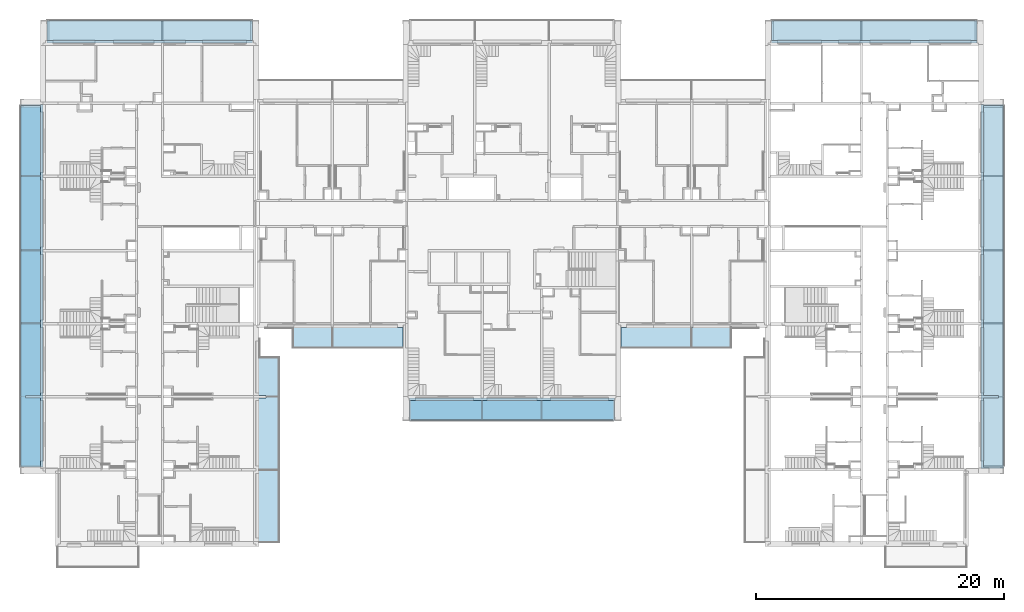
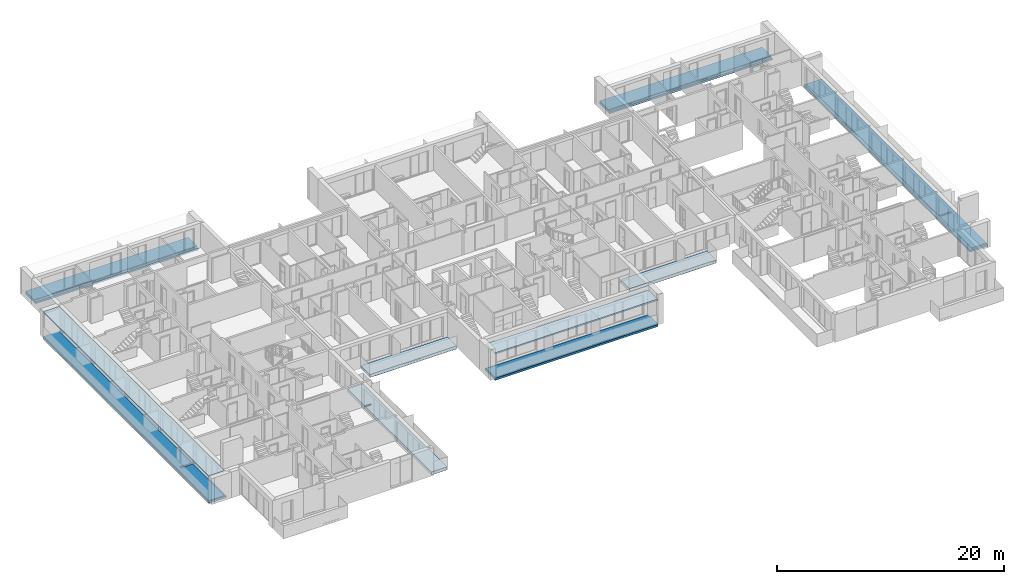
# One storey, part 1 of 61: 5 beams, 5 slabs.
"""IFC2X3 building model written with IfcOpenShell, lengths in millimetres."""

from ifc_helpers import new_model, entity, si_unit, converted_unit, derived_unit, money_unit, direction, frame, origin_with_axes, place, context, subcontext, project, spatial, faceted_brep, material, material_list, type_object, element, save


model = new_model("IFC2X3")

# Units and contexts
model_context = context("Model", 3, precision=0.01, world=origin_with_axes(), true_north=direction((0.34421633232, 0.938890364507)))
body_context = subcontext(model_context, "Body", "Model", "MODEL_VIEW")
ifc_project = project(units=[si_unit("LENGTHUNIT", "METRE", prefix="MILLI"), si_unit("AREAUNIT", "SQUARE_METRE"), si_unit("VOLUMEUNIT", "CUBIC_METRE"), converted_unit("PLANEANGLEUNIT", "DEGREE", entity("IfcPlaneAngleMeasure", 0.0174532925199), si_unit("PLANEANGLEUNIT", "RADIAN"), dimensions=[0, 0, 0, 0, 0, 0, 0]), si_unit("SOLIDANGLEUNIT", "STERADIAN"), money_unit("USD"), converted_unit("TIMEUNIT", "Year", entity("IfcTimeMeasure", 31556926.0), si_unit("TIMEUNIT", "SECOND"), dimensions=[0, 0, 1, 0, 0, 0, 0]), si_unit("MASSUNIT", "GRAM", prefix="KILO"), si_unit("THERMODYNAMICTEMPERATUREUNIT", "DEGREE_CELSIUS"), si_unit("LUMINOUSINTENSITYUNIT", "LUMEN"), si_unit("ENERGYUNIT", "JOULE", prefix="MEGA"), derived_unit("THERMALCONDUCTANCEUNIT", [(si_unit("POWERUNIT", "WATT"), 1), (si_unit("LENGTHUNIT", "METRE"), -1), (si_unit("THERMODYNAMICTEMPERATUREUNIT", "KELVIN"), -1)]), derived_unit("SPECIFICHEATCAPACITYUNIT", [(si_unit("ENERGYUNIT", "JOULE"), 1), (si_unit("MASSUNIT", "GRAM", prefix="KILO"), -1), (si_unit("THERMODYNAMICTEMPERATUREUNIT", "KELVIN"), -1)]), derived_unit("MASSDENSITYUNIT", [(si_unit("MASSUNIT", "GRAM", prefix="KILO"), 1), (si_unit("VOLUMEUNIT", "CUBIC_METRE"), -1)])], contexts=[model_context])

# Site, building, storey
site_placement = place(None, origin_with_axes())
site = spatial("IfcSite", under=ifc_project, at=site_placement, Name="USTRONIE MORSKIE", CompositionType="ELEMENT")
building_placement = place(site_placement, origin_with_axes())
building = spatial("IfcBuilding", under=site, at=building_placement, Name="Budynek", CompositionType="ELEMENT")
storey_placement = place(building_placement, frame((0.0, 0.0, 13000.0), z_axis=(0.0, 0.0, 1.0), x_axis=(1.0, 0.0, 0.0)))
storey = spatial("IfcBuildingStorey", under=building, at=storey_placement, Name="PIĘTRO 4", CompositionType="ELEMENT", Elevation=13000.0)

# Beams
ifc_material_1 = material(Name="Laminat")
ifc_material_2 = material(Name="Membrana przeciwwilgociowa")
ifc_material_3 = material(Name="Blacha ocynkowana")
ifc_material_4 = material(Name="Beton konstrukcyjny B25")
ifc_material_5 = material(Name="Płyty styropianowe twarde HIGH-PRIORITY")
ifc_material_list_1 = material_list([ifc_material_1, ifc_material_2, ifc_material_3, ifc_material_4, ifc_material_5])
beam_type = type_object("IfcBeamType", Name="USTR - balkon_02 1810 x 320", PredefinedType="NOTDEFINED")
beam_1_placement = place(storey_placement, frame((349967.921003, 715311.199036, -360.000001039), z_axis=(0.0, 0.0, 1.0), x_axis=(1.0, 0.0, 0.0)))
element("IfcBeam", 1, at=beam_1_placement, inside=storey, type_object=beam_type, material=ifc_material_list_1, Name="P8", context=body_context, shape_type="Brep", body=[
    faceted_brep([(-1420.03136309, 5590.0, 309.999996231), (-1420.03136309, 5790.0, 309.999996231), (-214.999892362, 5790.0, 309.999996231), (-214.999892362, 29180.0, 309.999996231), (-1782.4997996, 29180.0, 309.999996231), (-1782.4997996, 0.0, 309.999996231), (-214.999892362, 0.0, 309.999996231), (-214.999892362, 5590.0, 309.999996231), (-1420.03136309, 5590.0, 284.999996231), (-1420.03136309, 5790.0, 284.999996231), (-214.999892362, 5790.0, 284.999996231), (-214.999892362, 29180.0, 284.999996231), (-1757.49989236, 29180.0, 284.999996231), (-1757.49989236, 29180.0, 214.999996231), (-1782.4997996, 29180.0, 214.999996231), (-1782.4997996, 0.0, 214.999996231), (-1757.49989236, 0.0, 214.999996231), (-1757.49989236, 0.0, 284.999996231), (-214.999892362, 0.0, 284.999996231), (-214.999892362, 5590.0, 284.999996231)], [[[0, 1, 2, 3, 4, 5, 6, 7]], [[1, 0, 8, 9]], [[10, 2, 1, 9]], [[2, 10, 11, 3]], [[4, 3, 11, 12, 13, 14]], [[4, 14, 15, 5]], [[5, 15, 16, 17, 18, 6]], [[19, 7, 6, 18]], [[0, 7, 19, 8]], [[8, 19, 18, 17, 12, 11, 10, 9]], [[13, 12, 17, 16]], [[14, 13, 16, 15]]]),
    faceted_brep([(-1420.03136309, 5590.0, 210.000015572), (-1420.03136309, 5790.0, 210.000015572), (-199.99997563, 5790.0, 209.999997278), (-199.99997563, 29290.0, 209.999997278), (-1799.99979832, 29290.0, 209.999997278), (-1799.99979832, 0.0, 209.999997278), (-199.99997563, 0.0, 209.999997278), (-199.99997563, 5590.0, 209.999997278), (-1420.03136309, 5590.0, 200.000001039), (-1420.03136309, 5790.0, 200.000001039), (-199.99997563, 5790.0, 200.000001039), (-199.99997563, 29290.0, 199.999995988), (-1799.99979832, 29290.0, 200.000019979), (-1799.99979832, 0.0, 200.000019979), (-199.99997563, 0.0, 199.999995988), (-199.99997563, 5590.0, 200.000001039)], [[[0, 1, 2, 3, 4, 5, 6, 7]], [[1, 0, 8, 9]], [[10, 2, 1, 9]], [[2, 10, 11, 3]], [[11, 12, 4, 3]], [[5, 4, 12, 13]], [[5, 13, 14, 6]], [[15, 7, 6, 14]], [[0, 7, 15, 8]], [[8, 15, 14, 13, 12, 11, 10, 9]]]),
    faceted_brep([(-1420.00008423, 5590.0, 1.039014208e-06), (-1420.00008423, 5790.0, 1.039014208e-06), (-209.999887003, 5790.0, 1.039014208e-06), (-209.999887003, 29290.0, 1.52888350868e-05), (-1799.99980792, 29290.0, -1.01926289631e-05), (-1799.99980792, 0.0, -1.01926289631e-05), (-209.999887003, 0.0, 1.52888350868e-05), (-209.999887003, 5590.0, 1.039014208e-06), (-1420.00008423, 5590.0, -10.0000071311), (-1420.00008423, 5790.0, -10.0000071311), (-209.999402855, 5790.0, -10.0000071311), (-209.999402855, 29290.0, -10.0000071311), (-1810.03048454, 29290.0, -10.0000071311), (-1810.03048454, 29290.0, 210.000001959), (-1799.99980792, 29290.0, 210.000001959), (-1799.99980792, 0.0, 210.000001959), (-1810.03048454, 0.0, 210.000001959), (-1810.03048454, 0.0, -10.0000071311), (-209.999402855, 0.0, -10.0000071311), (-209.999402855, 5590.0, -10.0000071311)], [[[0, 1, 2, 3, 4, 5, 6, 7]], [[1, 0, 8, 9]], [[10, 2, 1, 9]], [[2, 10, 11, 3]], [[11, 12, 13, 14, 4, 3]], [[5, 4, 14, 15]], [[16, 17, 18, 6, 5, 15]], [[19, 7, 6, 18]], [[0, 7, 19, 8]], [[8, 19, 18, 17, 12, 11, 10, 9]], [[16, 13, 12, 17]], [[15, 14, 13, 16]]]),
    faceted_brep([(-1799.99981143, 29290.0, 200.000023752), (-1799.99981143, 29290.0, 0.0), (-1799.99981143, 0.0, 0.0), (-1799.99981143, 0.0, 200.000023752), (-199.999996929, 29290.0, 200.000023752), (-99.9999716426, 29290.0, 200.000023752), (-99.9999716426, 29290.0, 0.0), (-209.999887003, 29290.0, 1.52888350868e-05), (-209.999887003, 0.0, 1.52888350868e-05), (-99.9999716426, 0.0, 0.0), (-99.9999716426, 0.0, 200.000023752), (-199.999996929, 0.0, 200.000023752)], [[[0, 1, 2, 3]], [[0, 4, 5, 6, 7, 1]], [[1, 7, 8, 2]], [[3, 2, 8, 9, 10, 11]], [[4, 0, 3, 11]], [[5, 4, 11, 10]], [[6, 5, 10, 9]], [[7, 6, 9, 8]]]),
    faceted_brep([(-99.9999724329, 0.0, 200.000021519), (-99.9999724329, 29290.0, 200.000021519), (-99.9999724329, 29290.0, 0.0), (-99.9999724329, 0.0, 0.0), (0.0, 0.0, 200.000021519), (0.0, 29290.0, 200.000021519), (0.0, 29290.0, 0.0), (0.0, 0.0, 0.0)], [[[0, 1, 2, 3]], [[4, 5, 1, 0]], [[2, 1, 5, 6]], [[3, 2, 6, 7]], [[4, 0, 3, 7]], [[7, 6, 5, 4]]]),
])
beam_2_placement = place(storey_placement, frame((425667.920835, 715201.199036, -360.000001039), z_axis=(0.0, 0.0, 1.0), x_axis=(1.0, 0.0, 0.0)))
element("IfcBeam", 2, at=beam_2_placement, inside=storey, type_object=beam_type, material=ifc_material_list_1, Name="P8", context=body_context, shape_type="Brep", body=[
    faceted_brep([(1420.00008423, 5700.0, 309.999996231), (214.999892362, 5700.0, 309.999996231), (214.999892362, 110.0, 309.999996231), (1782.4997996, 110.0, 309.999996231), (1782.4997996, 29290.0, 309.999996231), (214.999892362, 29290.0, 309.999996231), (214.999892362, 5900.0, 309.999996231), (1420.00008423, 5900.0, 309.999996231), (1420.00008423, 5700.0, 284.999996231), (214.999892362, 5700.0, 284.999996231), (214.999892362, 110.0, 284.999996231), (1782.4997996, 110.0, 214.999996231), (1757.49989236, 110.0, 284.999996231), (1757.49989236, 110.0, 214.999996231), (1782.4997996, 29290.0, 214.999996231), (1757.49989236, 29290.0, 214.999996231), (1757.49989236, 29290.0, 284.999996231), (214.999892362, 29290.0, 284.999996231), (214.999892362, 5900.0, 284.999996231), (1420.00008423, 5900.0, 284.999996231)], [[[0, 1, 2, 3, 4, 5, 6, 7]], [[1, 0, 8, 9]], [[1, 9, 10, 2]], [[11, 3, 2, 10, 12, 13]], [[14, 4, 3, 11]], [[5, 4, 14, 15, 16, 17]], [[18, 6, 5, 17]], [[7, 6, 18, 19]], [[0, 7, 19, 8]], [[19, 18, 17, 16, 12, 10, 9, 8]], [[16, 15, 13, 12]], [[15, 14, 11, 13]]]),
    faceted_brep([(1420.00008423, 5700.0, 209.999997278), (199.99997563, 5700.0, 209.999997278), (199.99997563, 0.0, 209.999997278), (1799.99979832, 0.0, 209.999997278), (1799.99979832, 29400.0, 209.999997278), (199.99997563, 29400.0, 209.999997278), (199.99997563, 5900.0, 209.999997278), (1420.00008423, 5900.0, 209.999997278), (1420.00008423, 5700.0, 200.000001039), (199.99997563, 5700.0, 200.000001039), (199.99997563, 0.0, 199.999995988), (1799.99979832, 0.0, 200.000019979), (1799.99979832, 29400.0, 200.000019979), (199.99997563, 29400.0, 199.999995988), (199.99997563, 5900.0, 200.000001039), (1420.00008423, 5900.0, 200.000001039)], [[[0, 1, 2, 3, 4, 5, 6, 7]], [[1, 0, 8, 9]], [[1, 9, 10, 2]], [[11, 3, 2, 10]], [[11, 12, 4, 3]], [[5, 4, 12, 13]], [[14, 6, 5, 13]], [[7, 6, 14, 15]], [[0, 7, 15, 8]], [[15, 14, 13, 12, 11, 10, 9, 8]]]),
    faceted_brep([(1420.00008423, 5700.0, 1.039014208e-06), (209.999887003, 5700.0, 1.039014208e-06), (209.999887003, 0.0, 1.52888350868e-05), (1799.99980792, 0.0, -1.01926307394e-05), (1799.99980792, 29400.0, -1.01926307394e-05), (209.999887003, 29400.0, 1.52888350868e-05), (209.999887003, 5900.0, 1.039014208e-06), (1420.00008423, 5900.0, 1.039014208e-06), (1420.00008423, 5700.0, -10.0000071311), (209.999402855, 5700.0, -10.0000071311), (209.999402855, 0.0, -10.0000071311), (1810.03048454, 0.0, -10.0000071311), (1810.03048454, 0.0, 210.000001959), (1799.99980792, 0.0, 210.000001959), (1799.99980792, 29400.0, 210.000001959), (1810.03048454, 29400.0, 210.000001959), (1810.03048454, 29400.0, -10.0000071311), (209.999402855, 29400.0, -10.0000071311), (209.999402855, 5900.0, -10.0000071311), (1420.00008423, 5900.0, -10.0000071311)], [[[0, 1, 2, 3, 4, 5, 6, 7]], [[1, 0, 8, 9]], [[1, 9, 10, 2]], [[11, 12, 13, 3, 2, 10]], [[13, 14, 4, 3]], [[14, 15, 16, 17, 5, 4]], [[18, 6, 5, 17]], [[7, 6, 18, 19]], [[0, 7, 19, 8]], [[19, 18, 17, 16, 11, 10, 9, 8]], [[11, 16, 15, 12]], [[12, 15, 14, 13]]]),
    faceted_brep([(199.999996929, 29400.0, 200.000023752), (99.9999716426, 29400.0, 200.000023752), (99.9999716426, 0.0, 200.000023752), (199.999996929, 0.0, 200.000023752), (1799.99981143, 29400.0, 200.000023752), (1799.99981143, 29400.0, 0.0), (209.999887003, 29400.0, 1.52888350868e-05), (99.9999716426, 29400.0, 0.0), (99.9999716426, 0.0, 0.0), (209.999887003, 0.0, 1.52888350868e-05), (1799.99981143, 0.0, 0.0), (1799.99981143, 0.0, 200.000023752)], [[[0, 1, 2, 3]], [[0, 4, 5, 6, 7, 1]], [[1, 7, 8, 2]], [[3, 2, 8, 9, 10, 11]], [[4, 0, 3, 11]], [[5, 4, 11, 10]], [[6, 5, 10, 9]], [[7, 6, 9, 8]]]),
    faceted_brep([(0.0, 0.0, 200.000021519), (0.0, 29400.0, 200.000021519), (0.0, 29400.0, 0.0), (0.0, 0.0, 0.0), (99.9999724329, 0.0, 200.000021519), (99.9999724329, 29400.0, 200.000021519), (99.9999724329, 29400.0, 0.0), (99.9999724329, 0.0, 0.0)], [[[0, 1, 2, 3]], [[4, 5, 1, 0]], [[2, 1, 5, 6]], [[3, 2, 6, 7]], [[4, 0, 3, 7]], [[7, 6, 5, 4]]]),
])
beam_3_placement = place(storey_placement, frame((366857.789911, 749551.197031, -360.000001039), z_axis=(0.0, 0.0, 1.0), x_axis=(-9.14543761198e-06, 0.999999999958, 0.0)))
element("IfcBeam", 3, at=beam_3_placement, inside=storey, type_object=beam_type, material=ifc_material_list_1, Name="B1", context=body_context, shape_type="Brep", body=[
    faceted_brep([(1782.49979959, 16579.8526906, 214.999996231), (1782.49979959, 16579.8526906, 309.999996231), (1782.49979959, 0.0, 309.999996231), (1782.49979959, 0.0, 214.999996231), (214.999892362, 16579.867026, 309.999996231), (1757.49989236, 16579.8529192, 214.999996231), (1757.49989236, 16579.8529192, 284.999996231), (214.999892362, 16579.867026, 284.999996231), (214.999892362, 0.0, 309.999996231), (214.999892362, 0.0, 284.999996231), (1757.49989236, 0.0, 284.999996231), (1757.49989236, 0.0, 214.999996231)], [[[0, 1, 2, 3]], [[4, 1, 0, 5, 6, 7]], [[1, 4, 8, 2]], [[3, 2, 8, 9, 10, 11]], [[5, 0, 3, 11]], [[6, 5, 11, 10]], [[7, 6, 10, 9]], [[4, 7, 9, 8]]]),
    faceted_brep([(1799.99979832, 0.0, 209.999997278), (1799.99979832, 16580.0, 209.999997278), (199.999975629, 16580.0, 209.999997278), (199.999975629, 0.0, 209.999997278), (1799.99979832, 0.0, 200.000019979), (1799.99979832, 16580.0, 200.000019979), (199.999975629, 16580.0, 199.999995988), (199.999975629, 0.0, 199.999995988)], [[[0, 1, 2, 3]], [[4, 5, 1, 0]], [[2, 1, 5, 6]], [[3, 2, 6, 7]], [[4, 0, 3, 7]], [[7, 6, 5, 4]]]),
    faceted_brep([(1810.03048454, 0.0, 210.000001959), (1810.03048454, 16580.0, 210.000001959), (1799.99980792, 16580.0, 210.000001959), (1799.99980792, 0.0, 210.000001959), (1810.03048454, 0.0, -10.0000071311), (1810.03048454, 16580.0, -10.0000071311), (209.999402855, 16580.0, -10.0000071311), (209.999887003, 16580.0, 1.52888350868e-05), (1799.99980792, 16580.0, -1.01926307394e-05), (1799.99980792, 0.0, -1.01926307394e-05), (209.999887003, 0.0, 1.52888350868e-05), (209.999402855, 0.0, -10.0000071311)], [[[0, 1, 2, 3]], [[4, 5, 1, 0]], [[2, 1, 5, 6, 7, 8]], [[3, 2, 8, 9]], [[4, 0, 3, 9, 10, 11]], [[11, 6, 5, 4]], [[10, 7, 6, 11]], [[9, 8, 7, 10]]]),
    faceted_brep([(199.999996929, 16580.0, 200.000023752), (99.9999716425, 16580.0, 200.000023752), (99.9999716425, 0.0, 200.000023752), (199.999996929, 0.0, 200.000023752), (1799.99981143, 16580.0, 200.000023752), (1799.99981143, 16580.0, 0.0), (209.999887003, 16580.0, 1.52888350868e-05), (99.9999716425, 16580.0, 0.0), (99.9999716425, 0.0, 0.0), (209.999887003, 0.0, 1.52888350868e-05), (1799.99981143, 0.0, 0.0), (1799.99981143, 0.0, 200.000023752)], [[[0, 1, 2, 3]], [[0, 4, 5, 6, 7, 1]], [[1, 7, 8, 2]], [[3, 2, 8, 9, 10, 11]], [[4, 0, 3, 11]], [[5, 4, 11, 10]], [[6, 5, 10, 9]], [[7, 6, 9, 8]]]),
    faceted_brep([(0.153636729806, 16580.0, 200.000001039), (0.00200537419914, 0.0, 200.000001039), (99.9999724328, 0.0, 200.000021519), (99.9999724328, 16580.0, 200.000021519), (0.00200537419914, 0.0, 0.0), (0.153636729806, 16580.0, 0.0), (0.0689487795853, 7319.86901296, 1.039014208e-06), (0.0674855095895, 7159.86901296, 1.039014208e-06), (99.9999724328, 0.0, 0.0), (99.9999724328, 16580.0, 0.0)], [[[0, 1, 2, 3]], [[4, 1, 0, 5, 6, 7]], [[1, 4, 8, 2]], [[3, 2, 8, 9]], [[5, 0, 3, 9]], [[6, 5, 9, 8, 4, 7]]]),
])
beam_4_placement = place(storey_placement, frame((425357.789911, 749551.197031, -360.000001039), z_axis=(0.0, 0.0, 1.0), x_axis=(-9.14543761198e-06, 0.999999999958, 0.0)))
element("IfcBeam", 4, at=beam_4_placement, inside=storey, type_object=beam_type, material=ifc_material_list_1, Name="B1", context=body_context, shape_type="Brep", body=[
    faceted_brep([(1782.49979959, 16579.8526906, 214.999996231), (1782.49979959, 16579.8526906, 309.999996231), (1782.49979959, 0.0, 309.999996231), (1782.49979959, 0.0, 214.999996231), (214.999892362, 16579.867026, 309.999996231), (1757.49989236, 16579.8529192, 214.999996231), (1757.49989236, 16579.8529192, 284.999996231), (214.999892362, 16579.867026, 284.999996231), (214.999892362, 0.0, 309.999996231), (214.999892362, 0.0, 284.999996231), (1757.49989236, 0.0, 284.999996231), (1757.49989236, 0.0, 214.999996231)], [[[0, 1, 2, 3]], [[4, 1, 0, 5, 6, 7]], [[1, 4, 8, 2]], [[3, 2, 8, 9, 10, 11]], [[5, 0, 3, 11]], [[6, 5, 11, 10]], [[7, 6, 10, 9]], [[4, 7, 9, 8]]]),
    faceted_brep([(1799.99979832, 0.0, 209.999997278), (1799.99979832, 16580.0, 209.999997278), (199.999975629, 16580.0, 209.999997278), (199.999975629, 0.0, 209.999997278), (1799.99979832, 0.0, 200.000019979), (1799.99979832, 16580.0, 200.000019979), (199.999975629, 16580.0, 199.999995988), (199.999975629, 0.0, 199.999995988)], [[[0, 1, 2, 3]], [[4, 5, 1, 0]], [[2, 1, 5, 6]], [[3, 2, 6, 7]], [[4, 0, 3, 7]], [[7, 6, 5, 4]]]),
    faceted_brep([(1810.03048454, 0.0, 210.000001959), (1810.03048454, 16580.0, 210.000001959), (1799.99980792, 16580.0, 210.000001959), (1799.99980792, 0.0, 210.000001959), (1810.03048454, 0.0, -10.0000071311), (1810.03048454, 16580.0, -10.0000071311), (209.999402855, 16580.0, -10.0000071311), (209.999887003, 16580.0, 1.52888350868e-05), (1799.99980792, 16580.0, -1.01926307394e-05), (1799.99980792, 0.0, -1.01926307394e-05), (209.999887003, 0.0, 1.52888350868e-05), (209.999402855, 0.0, -10.0000071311)], [[[0, 1, 2, 3]], [[4, 5, 1, 0]], [[2, 1, 5, 6, 7, 8]], [[3, 2, 8, 9]], [[4, 0, 3, 9, 10, 11]], [[11, 6, 5, 4]], [[10, 7, 6, 11]], [[9, 8, 7, 10]]]),
    faceted_brep([(199.999996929, 16580.0, 200.000023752), (99.9999716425, 16580.0, 200.000023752), (99.9999716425, 0.0, 200.000023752), (199.999996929, 0.0, 200.000023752), (1799.99981143, 16580.0, 200.000023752), (1799.99981143, 16580.0, 0.0), (209.999887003, 16580.0, 1.52888350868e-05), (99.9999716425, 16580.0, 0.0), (99.9999716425, 0.0, 0.0), (209.999887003, 0.0, 1.52888350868e-05), (1799.99981143, 0.0, 0.0), (1799.99981143, 0.0, 200.000023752)], [[[0, 1, 2, 3]], [[0, 4, 5, 6, 7, 1]], [[1, 7, 8, 2]], [[3, 2, 8, 9, 10, 11]], [[4, 0, 3, 11]], [[5, 4, 11, 10]], [[6, 5, 10, 9]], [[7, 6, 9, 8]]]),
    faceted_brep([(0.15345995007, 16580.0, 0.0), (0.15345995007, 16580.0, 200.00000094), (99.9999724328, 16580.0, 200.000021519), (99.9999724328, 16580.0, 0.0), (0.0, 1215.2157488, 0.0), (0.0, 1215.21574745, 200.000000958), (0.0, 0.0, 200.000021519), (99.9999724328, 0.0, 200.000021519), (99.9999724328, 0.0, 0.0), (0.0, 0.0, 0.0)], [[[0, 1, 2, 3]], [[1, 0, 4, 5]], [[1, 5, 6, 7, 2]], [[3, 2, 7, 8]], [[0, 3, 8, 9, 4]], [[5, 4, 9, 6]], [[8, 7, 6, 9]]]),
])
beam_5_placement = place(storey_placement, frame((396107.920919, 720901.19912, -360.000001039), z_axis=(0.0, 0.0, 1.0), x_axis=(0.0, 1.0, 0.0)))
element("IfcBeam", 5, at=beam_5_placement, inside=storey, type_object=beam_type, material=ifc_material_list_1, Name="P8", context=body_context, shape_type="Brep", body=[
    faceted_brep([(-1782.4997996, 0.0, 214.999996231), (-1782.4997996, 16580.0, 214.999996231), (-1757.49989236, 16580.0, 214.999996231), (-1757.49989236, 0.0, 214.999996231), (-1782.4997996, 0.0, 309.999996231), (-1782.4997996, 16580.0, 309.999996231), (-214.999892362, 16580.0, 309.999996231), (-214.999892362, 16580.0, 284.999996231), (-1757.49989236, 16580.0, 284.999996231), (-1757.49989236, 0.0, 284.999996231), (-214.999892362, 0.0, 284.999996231), (-214.999892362, 0.0, 309.999996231)], [[[0, 1, 2, 3]], [[4, 5, 1, 0]], [[2, 1, 5, 6, 7, 8]], [[3, 2, 8, 9]], [[4, 0, 3, 9, 10, 11]], [[11, 6, 5, 4]], [[10, 7, 6, 11]], [[9, 8, 7, 10]]]),
    faceted_brep([(-1799.99979832, 0.0, 200.000019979), (-1799.99979832, 16580.0, 200.000019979), (-199.99997563, 16580.0, 199.999995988), (-199.99997563, 0.0, 199.999995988), (-1799.99979832, 0.0, 209.999997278), (-1799.99979832, 16580.0, 209.999997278), (-199.99997563, 16580.0, 209.999997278), (-199.99997563, 0.0, 209.999997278)], [[[0, 1, 2, 3]], [[4, 5, 1, 0]], [[2, 1, 5, 6]], [[3, 2, 6, 7]], [[4, 0, 3, 7]], [[7, 6, 5, 4]]]),
    faceted_brep([(-1810.03048454, 0.0, -10.0000071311), (-1810.03048454, 16580.0, -10.0000071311), (-209.999402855, 16580.0, -10.0000071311), (-209.999402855, 0.0, -10.0000071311), (-1810.03048454, 0.0, 210.000001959), (-1810.03048454, 16580.0, 210.000001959), (-1799.99980792, 16580.0, 210.000001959), (-1799.99980792, 16580.0, -1.01926289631e-05), (-209.999887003, 16580.0, 1.52888350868e-05), (-209.999887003, 0.0, 1.52888350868e-05), (-1799.99980792, 0.0, -1.01926289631e-05), (-1799.99980792, 0.0, 210.000001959)], [[[0, 1, 2, 3]], [[4, 5, 1, 0]], [[2, 1, 5, 6, 7, 8]], [[3, 2, 8, 9]], [[4, 0, 3, 9, 10, 11]], [[11, 6, 5, 4]], [[10, 7, 6, 11]], [[9, 8, 7, 10]]]),
    faceted_brep([(-1799.99981143, 16580.0, 200.000023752), (-1799.99981143, 16580.0, 0.0), (-1799.99981143, 0.0, 0.0), (-1799.99981143, 0.0, 200.000023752), (-199.999996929, 16580.0, 200.000023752), (-99.9999716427, 16580.0, 200.000023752), (-99.9999716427, 16580.0, 0.0), (-209.999887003, 16580.0, 1.52888350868e-05), (-209.999887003, 0.0, 1.52888350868e-05), (-99.9999716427, 0.0, 0.0), (-99.9999716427, 0.0, 200.000023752), (-199.999996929, 0.0, 200.000023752)], [[[0, 1, 2, 3]], [[0, 4, 5, 6, 7, 1]], [[1, 7, 8, 2]], [[3, 2, 8, 9, 10, 11]], [[4, 0, 3, 11]], [[5, 4, 11, 10]], [[6, 5, 10, 9]], [[7, 6, 9, 8]]]),
    faceted_brep([(-99.9999724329, 0.0, 200.000021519), (-99.9999724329, 16580.0, 200.000021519), (-99.9999724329, 16580.0, 0.0), (-99.9999724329, 0.0, 0.0), (0.0, 0.0, 200.000021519), (0.0, 16580.0, 200.000021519), (0.0, 16580.0, 0.0), (0.0, 0.0, 0.0)], [[[0, 1, 2, 3]], [[4, 5, 1, 0]], [[2, 1, 5, 6]], [[3, 2, 6, 7]], [[4, 0, 3, 7]], [[7, 6, 5, 4]]]),
])

# Slabs
ifc_material_6 = material(Name="Płytki okładzinowe")
ifc_material_7 = material(Name="Pustka powietrzna")
ifc_material_list_2 = material_list([ifc_material_6, ifc_material_7, ifc_material_2, ifc_material_4, ifc_material_1])
slab_type_1 = type_object("IfcSlabType", Name="Balkony na HALFENACH 330", PredefinedType="FLOOR")
slab_1_placement = place(storey_placement, frame((367367.923256, 724111.198359, -50.0), z_axis=(0.0, 0.0, 1.0), x_axis=(1.0, 0.0, 0.0)))
element("IfcSlab", 6, at=slab_1_placement, inside=storey, type_object=slab_type_1, material=ifc_material_list_2, Name="P8", PredefinedType="FLOOR", context=body_context, shape_type="Brep", body=[
    faceted_brep([(599.997662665, -3209.99932241, 0.0), (0.00756519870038, -3209.99932241, 0.0), (0.0349036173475, -14809.9994244, 0.0), (1600.03372044, -14809.9994244, 0.0), (1600.00289647, 0.0, 0.0), (0.0, 0.0, 0.0), (0.00709384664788, -3009.99932241, 0.0), (599.997662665, -3009.99932241, 0.0), (599.997662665, -3209.99932241, -25.0), (0.00756519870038, -3209.99932241, -25.0), (0.0349036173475, -14809.9994244, -25.0), (1600.03372044, -14809.9994244, -25.0), (1600.00289647, 0.0, -25.0), (0.0, 0.0, -25.0), (0.00709384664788, -3009.99932241, -25.0), (599.997662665, -3009.99932241, -25.0)], [[[0, 1, 2, 3, 4, 5, 6, 7]], [[1, 0, 8, 9]], [[1, 9, 10, 2]], [[10, 11, 3, 2]], [[11, 12, 4, 3]], [[12, 13, 5, 4]], [[14, 6, 5, 13]], [[7, 6, 14, 15]], [[0, 7, 15, 8]], [[15, 14, 13, 12, 11, 10, 9, 8]]]),
    faceted_brep([(599.997662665, -3209.99932241, -25.0), (0.00756519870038, -3209.99932241, -25.0), (0.0349036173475, -14809.9994244, -25.0), (1600.03372044, -14809.9994244, -25.0), (1600.00289647, 0.0, -25.0), (0.0, 0.0, -25.0), (0.00709384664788, -3009.99932241, -25.0), (599.997662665, -3009.99932241, -25.0), (599.997662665, -3209.99932241, -105.0), (0.00756519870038, -3209.99932241, -105.0), (0.0349036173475, -14809.9994244, -105.0), (1600.03372044, -14809.9994244, -105.0), (1600.00289647, 0.0, -105.0), (0.0, 0.0, -105.0), (0.00709384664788, -3009.99932241, -105.0), (599.997662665, -3009.99932241, -105.0)], [[[0, 1, 2, 3, 4, 5, 6, 7]], [[1, 0, 8, 9]], [[1, 9, 10, 2]], [[10, 11, 3, 2]], [[11, 12, 4, 3]], [[12, 13, 5, 4]], [[14, 6, 5, 13]], [[7, 6, 14, 15]], [[0, 7, 15, 8]], [[15, 14, 13, 12, 11, 10, 9, 8]]]),
    faceted_brep([(599.997662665, -3209.99932241, -105.0), (0.00756519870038, -3209.99932241, -105.0), (0.0349036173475, -14809.9994244, -105.0), (1600.03372044, -14809.9994244, -105.0), (1600.00289647, 0.0, -105.0), (0.0, 0.0, -105.0), (0.00709384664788, -3009.99932241, -105.0), (599.997662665, -3009.99932241, -105.0), (599.997662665, -3209.99932241, -110.0), (0.00756519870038, -3209.99932241, -110.0), (0.0349036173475, -14809.9994244, -110.0), (1600.03372044, -14809.9994244, -110.0), (1600.00289647, 0.0, -110.0), (0.0, 0.0, -110.0), (0.00709384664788, -3009.99932241, -110.0), (599.997662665, -3009.99932241, -110.0)], [[[0, 1, 2, 3, 4, 5, 6, 7]], [[1, 0, 8, 9]], [[1, 9, 10, 2]], [[10, 11, 3, 2]], [[11, 12, 4, 3]], [[12, 13, 5, 4]], [[14, 6, 5, 13]], [[7, 6, 14, 15]], [[0, 7, 15, 8]], [[15, 14, 13, 12, 11, 10, 9, 8]]]),
    faceted_brep([(0.0349036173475, -14809.9994244, -310.0), (0.0349036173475, -14809.9994244, -110.0), (0.0, 0.0, -110.0), (0.0, 0.0, -310.0), (1600.03372044, -14809.9994244, -310.0), (1600.03372044, -14809.9994244, -110.0), (1600.00289647, 0.0, -110.0), (1600.00289647, 0.0, -310.0)], [[[0, 1, 2, 3]], [[4, 5, 1, 0]], [[2, 1, 5, 6]], [[3, 2, 6, 7]], [[3, 7, 4, 0]], [[7, 6, 5, 4]]]),
    faceted_brep([(10.0338443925, -14809.9994244, -330.0), (10.0338443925, -14809.9994244, -310.0), (10.0094750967, -3209.99932241, -310.0), (10.0094750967, -3209.99932241, -330.0), (1600.03372044, -14809.9994244, -330.0), (1600.03372044, -14809.9994244, -310.0), (1600.00289647, 0.0, -310.0), (10.0027315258, 0.0, -310.0), (10.0090549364, -3009.99932241, -310.0), (600.028941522, -3009.99932241, -310.0), (600.028941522, -3209.99932241, -310.0), (600.028941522, -3209.99932241, -330.0), (600.028941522, -3009.99932241, -330.0), (10.0090549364, -3009.99932241, -330.0), (10.0027315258, 0.0, -330.0), (1600.00289647, 0.0, -330.0)], [[[0, 1, 2, 3]], [[1, 0, 4, 5]], [[2, 1, 5, 6, 7, 8, 9, 10]], [[3, 2, 10, 11]], [[0, 3, 11, 12, 13, 14, 15, 4]], [[15, 6, 5, 4]], [[14, 7, 6, 15]], [[7, 14, 13, 8]], [[8, 13, 12, 9]], [[11, 10, 9, 12]]]),
])
slab_2_placement = place(storey_placement, frame((379016.714661, 725001.198359, -50.0), z_axis=(0.0, 0.0, 1.0), x_axis=(1.0, 0.0, 0.0)))
element("IfcSlab", 7, at=slab_2_placement, inside=storey, type_object=slab_type_1, material=ifc_material_list_2, Name="P3", PredefinedType="FLOOR", context=body_context, shape_type="Brep", body=[
    faceted_brep([(0.0, 0.0, -25.0), (1.44800593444, 1600.00067759, -25.0), (1.44800593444, 1600.00067759, 0.0), (0.0, 0.0, 0.0), (-8838.77439156, 0.0, -25.0), (-8838.77439156, 1600.00067759, -25.0), (-8838.77439156, 1600.00067759, 0.0), (-8838.77439156, 0.0, 0.0)], [[[0, 1, 2, 3]], [[1, 0, 4, 5]], [[1, 5, 6, 2]], [[7, 3, 2, 6]], [[4, 0, 3, 7]], [[5, 4, 7, 6]]]),
    faceted_brep([(0.0, 0.0, -105.0), (1.44800593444, 1600.00067759, -105.0), (1.44800593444, 1600.00067759, -25.0), (0.0, 0.0, -25.0), (-8838.77439156, 0.0, -105.0), (-8838.77439156, 1600.00067759, -105.0), (-8838.77439156, 1600.00067759, -25.0), (-8838.77439156, 0.0, -25.0)], [[[0, 1, 2, 3]], [[1, 0, 4, 5]], [[1, 5, 6, 2]], [[7, 3, 2, 6]], [[4, 0, 3, 7]], [[5, 4, 7, 6]]]),
    faceted_brep([(0.0, 0.0, -110.0), (1.44800593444, 1600.00067759, -110.0), (1.44800593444, 1600.00067759, -105.0), (0.0, 0.0, -105.0), (-8838.77439156, 0.0, -110.0), (-8838.77439156, 1600.00067759, -110.0), (-8838.77439156, 1600.00067759, -105.0), (-8838.77439156, 0.0, -105.0)], [[[0, 1, 2, 3]], [[1, 0, 4, 5]], [[1, 5, 6, 2]], [[7, 3, 2, 6]], [[4, 0, 3, 7]], [[5, 4, 7, 6]]]),
    faceted_brep([(1.44800593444, 1600.00067759, -310.0), (1.44800593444, 1600.00067759, -110.0), (0.0, 0.0, -110.0), (0.0, 0.0, -310.0), (-8838.77439156, 1600.00067759, -310.0), (-8838.77439156, 1600.00067759, -110.0), (-8838.77439156, 0.0, -110.0), (-8838.77439156, 0.0, -310.0)], [[[0, 1, 2, 3]], [[4, 5, 1, 0]], [[2, 1, 5, 6]], [[3, 2, 6, 7]], [[3, 7, 4, 0]], [[7, 6, 5, 4]]]),
    faceted_brep([(-8.79374194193, 1590.00067759, -330.0), (-8.79374194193, 1590.00067759, -310.0), (-8.79374194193, 0.0, -310.0), (-8.79374194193, 0.0, -330.0), (-8838.77439156, 1590.00067759, -310.0), (-8838.77439156, 1590.00067759, -330.0), (-8838.77439156, 0.0, -310.0), (-8838.77439156, 0.0, -330.0)], [[[0, 1, 2, 3]], [[4, 1, 0, 5]], [[1, 4, 6, 2]], [[3, 2, 6, 7]], [[5, 0, 3, 7]], [[4, 5, 7, 6]]]),
])
slab_3_placement = place(storey_placement, frame((396619.640549, 725001.198359, -50.0), z_axis=(0.0, 0.0, 1.0), x_axis=(1.0, 0.0, 0.0)))
element("IfcSlab", 8, at=slab_3_placement, inside=storey, type_object=slab_type_1, material=ifc_material_list_2, Name="P3", PredefinedType="FLOOR", context=body_context, shape_type="Brep", body=[
    faceted_brep([(0.0, 0.0, -25.0), (8838.27323738, 0.0, -25.0), (8838.27323738, 0.0, 0.0), (0.0, 0.0, 0.0), (-1.44800593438, 1600.00067759, -25.0), (8838.27323738, 1600.00067759, -25.0), (8838.27323738, 1600.00067759, 0.0), (-1.44800593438, 1600.00067759, 0.0)], [[[0, 1, 2, 3]], [[1, 0, 4, 5]], [[1, 5, 6, 2]], [[7, 3, 2, 6]], [[4, 0, 3, 7]], [[5, 4, 7, 6]]]),
    faceted_brep([(0.0, 0.0, -105.0), (8838.27323738, 0.0, -105.0), (8838.27323738, 0.0, -25.0), (0.0, 0.0, -25.0), (-1.44800593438, 1600.00067759, -105.0), (8838.27323738, 1600.00067759, -105.0), (8838.27323738, 1600.00067759, -25.0), (-1.44800593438, 1600.00067759, -25.0)], [[[0, 1, 2, 3]], [[1, 0, 4, 5]], [[1, 5, 6, 2]], [[7, 3, 2, 6]], [[4, 0, 3, 7]], [[5, 4, 7, 6]]]),
    faceted_brep([(0.0, 0.0, -110.0), (8838.27323738, 0.0, -110.0), (8838.27323738, 0.0, -105.0), (0.0, 0.0, -105.0), (-1.44800593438, 1600.00067759, -110.0), (8838.27323738, 1600.00067759, -110.0), (8838.27323738, 1600.00067759, -105.0), (-1.44800593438, 1600.00067759, -105.0)], [[[0, 1, 2, 3]], [[1, 0, 4, 5]], [[1, 5, 6, 2]], [[7, 3, 2, 6]], [[4, 0, 3, 7]], [[5, 4, 7, 6]]]),
    faceted_brep([(8838.27323738, 0.0, -310.0), (8838.27323738, 0.0, -110.0), (0.0, 0.0, -110.0), (0.0, 0.0, -310.0), (8838.27323738, 1600.00067759, -310.0), (8838.27323738, 1600.00067759, -110.0), (-1.44800593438, 1600.00067759, -110.0), (-1.44800593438, 1600.00067759, -310.0)], [[[0, 1, 2, 3]], [[4, 5, 1, 0]], [[2, 1, 5, 6]], [[3, 2, 6, 7]], [[3, 7, 4, 0]], [[7, 6, 5, 4]]]),
    faceted_brep([(8838.27323738, 1590.00067759, -330.0), (8838.27323738, 1590.00067759, -310.0), (8838.27323738, 0.0, -310.0), (8838.27323738, 0.0, -330.0), (8.2803702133, 1590.00067759, -310.0), (8.2803702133, 1590.00067759, -330.0), (8.2803702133, 0.0, -310.0), (8.2803702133, 0.0, -330.0)], [[[0, 1, 2, 3]], [[4, 1, 0, 5]], [[1, 4, 6, 2]], [[6, 7, 3, 2]], [[5, 0, 3, 7]], [[4, 5, 7, 6]]]),
])
slab_type_2 = type_object("IfcSlabType", Name="Laminat 150", PredefinedType="FLOOR")
slab_4_placement = place(storey_placement, frame((379527.920919, 720691.199036, 2599.99999792), z_axis=(0.0, 0.0, 1.0), x_axis=(1.0, 0.0, 0.0)))
element("IfcSlab", 9, at=slab_4_placement, inside=storey, type_object=slab_type_2, material=ifc_material_1, Name="P3", PredefinedType="FLOOR", context=body_context, shape_type="Brep", body=[
    faceted_brep([(0.0, -1600.03040031, 0.0), (0.0, 0.0, 0.0), (0.0, 0.0, -150.0), (0.0, -1600.03040031, -150.0), (16580.0, -1600.03040031, 0.0), (16580.0, 0.0, 0.0), (16580.0, 0.0, -150.0), (16580.0, -1600.03040031, -150.0)], [[[0, 1, 2, 3]], [[4, 5, 1, 0]], [[1, 5, 6, 2]], [[7, 3, 2, 6]], [[4, 0, 3, 7]], [[5, 4, 7, 6]]]),
])
slab_5_placement = place(storey_placement, frame((348157.920919, 715311.199036, 2629.99999792), z_axis=(0.0, 0.0, 1.0), x_axis=(1.0, 0.0, 0.0)))
element("IfcSlab", 10, at=slab_5_placement, inside=storey, type_object=slab_type_2, material=ifc_material_1, Name="P3", PredefinedType="FLOOR", context=body_context, shape_type="Brep", body=[
    faceted_brep([(1600.0, 0.0, 0.0), (0.0, 0.0, 0.0), (0.0, 0.0, -150.0), (1600.0, 0.0, -150.0), (1600.0, 29180.0, 0.0), (0.0, 29180.0, 0.0), (0.0, 29180.0, -150.0), (1600.0, 29180.0, -150.0)], [[[0, 1, 2, 3]], [[4, 5, 1, 0]], [[1, 5, 6, 2]], [[7, 3, 2, 6]], [[4, 0, 3, 7]], [[5, 4, 7, 6]]]),
])

save(model, "model.ifc")
